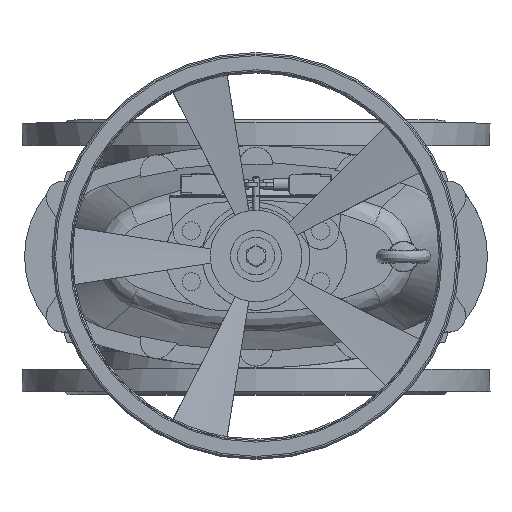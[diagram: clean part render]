
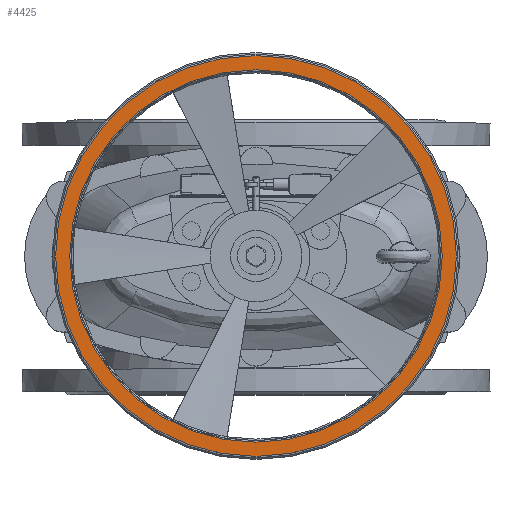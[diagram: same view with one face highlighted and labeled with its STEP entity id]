
A CAD part, top view. The second image highlights one B-rep face of the part: STEP entity #4425.
In plain terms, the highlighted planar face has unit normal (0, 0, 1).
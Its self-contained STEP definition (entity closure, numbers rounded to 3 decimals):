
#4425=ADVANCED_FACE('',(#24374,#24376),#24378,.T.);
#24374=FACE_BOUND('',#24375,.T.);
#24375=EDGE_LOOP('',(#27094));
#24376=FACE_BOUND('',#24377,.T.);
#24377=EDGE_LOOP('',(#27095));
#24378=PLANE('',#24379);
#24379=AXIS2_PLACEMENT_3D('',#24380,#24381,#24382);
#24380=CARTESIAN_POINT('',(0.,0.,813.));
#24381=DIRECTION('',(0.,0.,1.));
#24382=DIRECTION('',(1.,0.,0.));
#27094=ORIENTED_EDGE('',*,*,#28450,.T.);
#27095=ORIENTED_EDGE('',*,*,#28442,.F.);
#28442=EDGE_CURVE('',#30544,#30544,#30545,.T.);
#28450=EDGE_CURVE('',#30560,#30560,#30561,.T.);
#30544=VERTEX_POINT('',#40446);
#30545=CIRCLE('',#40447,183.);
#30560=VERTEX_POINT('',#40480);
#30561=CIRCLE('',#40481,197.);
#40446=CARTESIAN_POINT('',(183.,0.,813.));
#40447=AXIS2_PLACEMENT_3D('',#40448,#40449,#40450);
#40448=CARTESIAN_POINT('',(0.,0.,813.));
#40449=DIRECTION('',(0.,0.,1.));
#40450=DIRECTION('',(1.,0.,0.));
#40480=CARTESIAN_POINT('',(197.,0.,813.));
#40481=AXIS2_PLACEMENT_3D('',#40482,#40483,#40484);
#40482=CARTESIAN_POINT('',(0.,0.,813.));
#40483=DIRECTION('',(0.,0.,1.));
#40484=DIRECTION('',(1.,0.,0.));
